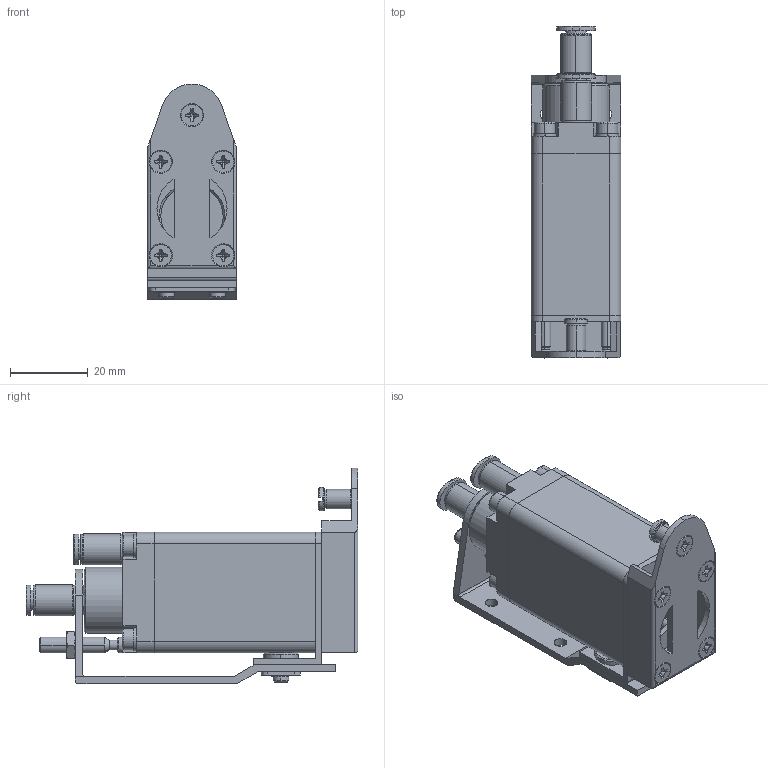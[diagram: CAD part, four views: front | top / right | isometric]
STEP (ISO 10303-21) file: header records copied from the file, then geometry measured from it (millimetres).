
FILE_DESCRIPTION (( 'STEP AP214' ), '1' );
FILE_NAME ('GT-NY05R-4.STEP', '2019-11-26T07:52:43', ( '微软用户' ), ( '微软中国' ), 'SwSTEP 2.0', 'SolidWorks 2016', '' );
FILE_SCHEMA (( 'AUTOMOTIVE_DESIGN' ));
Length unit declared in the file: millimetre
Products named in the file (1): GT-NY05R-4
Bounding box: 23 x 85.3 x 55.5 mm (x, y, z)
Surface area: 22209.5 mm2 (no closed solid volume)
Topology: 0 solids, 30 shells, 763 faces, 1973 edges, 1286 vertices
Faces by surface type: plane 338, cylinder 257, bspline 118, cone 28, torus 22
Entity records: 32585 total; most frequent: CARTESIAN_POINT 10660, ORIENTED_EDGE 3856, DIRECTION 3497, EDGE_CURVE 1963, AXIS2_PLACEMENT_3D 1322, VERTEX_POINT 1286, EDGE_LOOP 866, LINE 853
